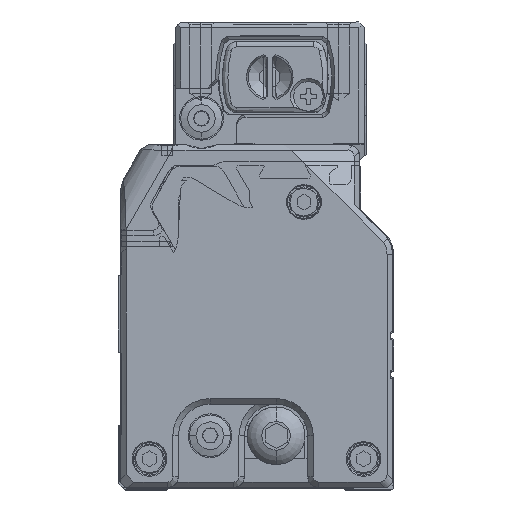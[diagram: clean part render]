
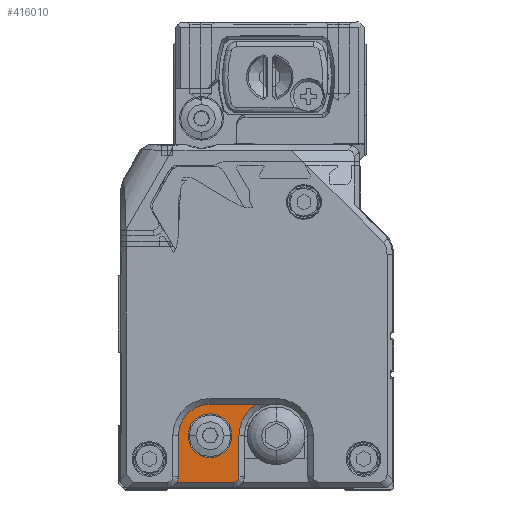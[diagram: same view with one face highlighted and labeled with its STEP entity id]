
A CAD part, left-side view. The second image highlights one B-rep face of the part: STEP entity #416010.
In plain terms, the highlighted planar face has unit normal (-1, 0, 0) as drawn and (1, 0, 0) by its records, which use the part's own axes.
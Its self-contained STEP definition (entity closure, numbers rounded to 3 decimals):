
#415110=CARTESIAN_POINT('',(3664.177,-5.938,
-12.8));
#415120=DIRECTION('',(-1.,0.,0.));
#415130=DIRECTION('',(0.,0.,-1.));
#415140=AXIS2_PLACEMENT_3D('',#415110,#415120,#415130);
#415150=PLANE('',#415140);
#415160=CARTESIAN_POINT('',(3664.177,4.212,
11.598));
#415170=DIRECTION('',(0.,-1.,0.));
#415180=VECTOR('',#415170,1.);
#415190=LINE('',#415160,#415180);
#415200=CARTESIAN_POINT('',(3664.177,8.48,
11.598));
#415210=VERTEX_POINT('',#415200);
#415220=CARTESIAN_POINT('',(3664.177,-1.788,
11.598));
#415230=VERTEX_POINT('',#415220);
#415240=EDGE_CURVE('',#415210,#415230,#415190,.T.);
#415250=ORIENTED_EDGE('',*,*,#415240,.T.);
#415260=CARTESIAN_POINT('',(3664.177,10.212,
10.598));
#415270=DIRECTION('',(-1.,0.,0.));
#415280=DIRECTION('',(0.,1.,0.));
#415290=AXIS2_PLACEMENT_3D('',#415260,#415270,#415280);
#415300=CIRCLE('',#415290,2.);
#415310=CARTESIAN_POINT('',(3664.177,8.212,
10.598));
#415320=VERTEX_POINT('',#415310);
#415330=EDGE_CURVE('',#415320,#415210,#415300,.T.);
#415340=ORIENTED_EDGE('',*,*,#415330,.T.);
#415350=CARTESIAN_POINT('',(3664.177,8.212,
3.148));
#415360=DIRECTION('',(0.,0.,1.));
#415370=VECTOR('',#415360,1.);
#415380=LINE('',#415350,#415370);
#415390=CARTESIAN_POINT('',(3664.177,8.212,
3.148));
#415400=VERTEX_POINT('',#415390);
#415410=EDGE_CURVE('',#415400,#415320,#415380,.T.);
#415420=ORIENTED_EDGE('',*,*,#415410,.T.);
#415430=CARTESIAN_POINT('',(3664.177,2.462,
3.148));
#415440=DIRECTION('',(-1.,0.,0.));
#415450=DIRECTION('',(0.,1.,0.));
#415460=AXIS2_PLACEMENT_3D('',#415430,#415440,#415450);
#415470=CIRCLE('',#415460,5.75);
#415480=CARTESIAN_POINT('',(3664.177,2.462,
-2.602));
#415490=VERTEX_POINT('',#415480);
#415500=EDGE_CURVE('',#415400,#415490,#415470,.T.);
#415510=ORIENTED_EDGE('',*,*,#415500,.F.);
#415520=CARTESIAN_POINT('',(3664.177,-5.888,
-2.602));
#415530=DIRECTION('',(0.,1.,0.));
#415540=VECTOR('',#415530,1.);
#415550=LINE('',#415520,#415540);
#415560=CARTESIAN_POINT('',(3664.177,-6.002,
-2.602));
#415570=VERTEX_POINT('',#415560);
#415580=EDGE_CURVE('',#415570,#415490,#415550,.T.);
#415590=ORIENTED_EDGE('',*,*,#415580,.T.);
#415600=CARTESIAN_POINT('',(3664.177,-9.538,
3.148));
#415610=DIRECTION('',(-1.,0.,0.));
#415620=DIRECTION('',(0.,1.,0.));
#415630=AXIS2_PLACEMENT_3D('',#415600,#415610,#415620);
#415640=CIRCLE('',#415630,6.75);
#415650=CARTESIAN_POINT('',(3664.177,-2.788,
3.148));
#415660=VERTEX_POINT('',#415650);
#415670=EDGE_CURVE('',#415660,#415570,#415640,.T.);
#415680=ORIENTED_EDGE('',*,*,#415670,.T.);
#415690=CARTESIAN_POINT('',(3664.177,-2.788,
6.873));
#415700=DIRECTION('',(0.,0.,-1.));
#415710=VECTOR('',#415700,1.);
#415720=LINE('',#415690,#415710);
#415730=CARTESIAN_POINT('',(3664.177,-2.788,
10.598));
#415740=VERTEX_POINT('',#415730);
#415750=EDGE_CURVE('',#415740,#415660,#415720,.T.);
#415760=ORIENTED_EDGE('',*,*,#415750,.T.);
#415770=CARTESIAN_POINT('',(3664.177,-1.788,
10.598));
#415780=DIRECTION('',(-1.,0.,0.));
#415790=DIRECTION('',(0.,1.,0.));
#415800=AXIS2_PLACEMENT_3D('',#415770,#415780,#415790);
#415810=CIRCLE('',#415800,1.);
#415820=EDGE_CURVE('',#415740,#415230,#415810,.T.);
#415830=ORIENTED_EDGE('',*,*,#415820,.F.);
#415840=EDGE_LOOP('',(#415830,#415760,#415680,#415590,#415510,#415420,
#415340,#415250));
#415850=FACE_OUTER_BOUND('',#415840,.T.);
#415860=CARTESIAN_POINT('',(3664.177,2.462,
3.148));
#415870=DIRECTION('',(-1.,0.,0.));
#415880=DIRECTION('',(0.,0.,-1.));
#415890=AXIS2_PLACEMENT_3D('',#415860,#415870,#415880);
#415900=CIRCLE('',#415890,4.);
#415910=CARTESIAN_POINT('',(3664.177,2.462,
7.148));
#415920=VERTEX_POINT('',#415910);
#415930=CARTESIAN_POINT('',(3664.177,2.462,
-0.852));
#415940=VERTEX_POINT('',#415930);
#415950=EDGE_CURVE('',#415920,#415940,#415900,.T.);
#415960=ORIENTED_EDGE('',*,*,#415950,.T.);
#415970=EDGE_CURVE('',#415940,#415920,#415900,.T.);
#415980=ORIENTED_EDGE('',*,*,#415970,.T.);
#415990=EDGE_LOOP('',(#415980,#415960));
#416000=FACE_BOUND('',#415990,.T.);
#416010=ADVANCED_FACE('',(#415850,#416000),#415150,.F.);
